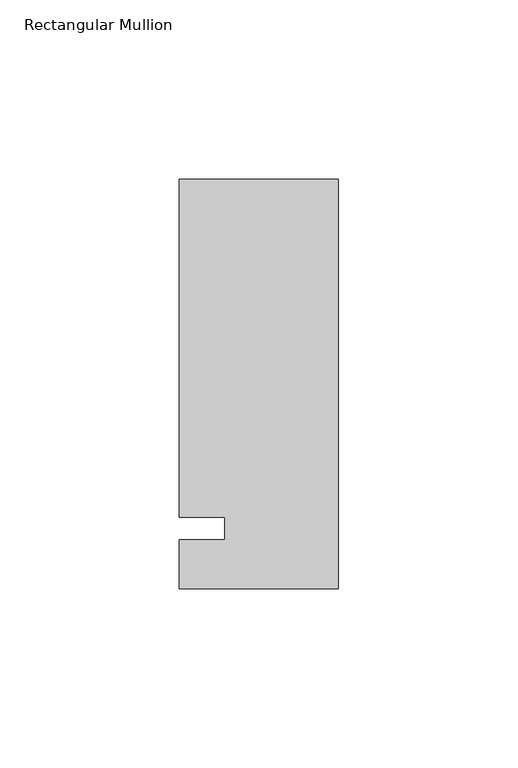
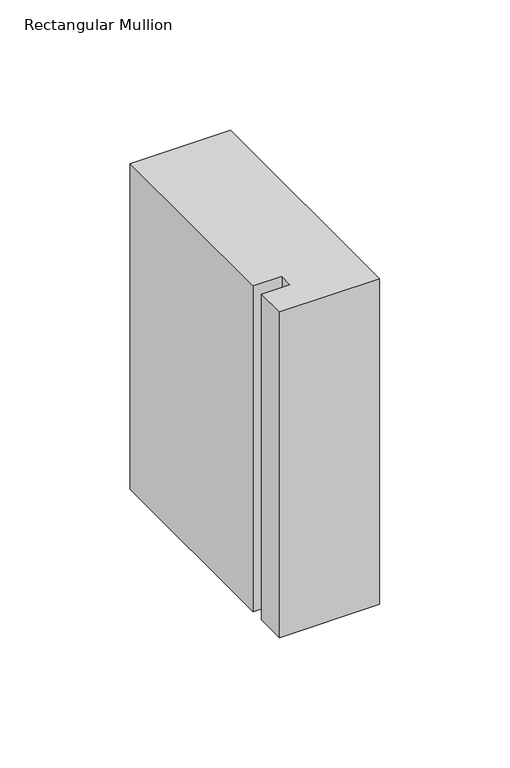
"""IFC4 building model written with IfcOpenShell, lengths in millimetres: member geometry, Rectangular Mullion : Kawneer-TRIFAB_VG_450_BACK_SB_Jamb R."""

from ifc_helpers import new_model, si_unit, frame, origin, place, context, project, spatial, polyline, outline, extrude, source, transform, mapped, element, save


def rectangular_mullion_f62ba54a(model_context):
    return source(origin(), model_context, "Body", "SweptSolid", [
        extrude(outline(polyline([(-44.45, -16.8081154), (-44.45, -3.175), (-31.7482296, -3.175), (-31.7482296, 3.175), (-44.45, 3.175), (-44.45, 97.4918846), (0.0, 97.4918846), (0.0, -16.8081154), (-44.45, -16.8081154)])), frame((0.0, 0.0, -152.4), z_axis=(0.0, 0.0, 1.0), x_axis=(1.0, 0.0, 0.0)), (0.0, 0.0, 1.0), 152.4),
    ])


if __name__ == "__main__":
    model = new_model("IFC4")
    model_context = context("Model", 3, world=origin())
    ifc_project = project(units=[si_unit("LENGTHUNIT", "METRE", prefix="MILLI")], contexts=[model_context])
    site = spatial("IfcSite", under=ifc_project)
    building = spatial("IfcBuilding", under=site)
    placement = place(None, origin())
    rectangular_mullion_shape = rectangular_mullion_f62ba54a(model_context)
    element("IfcMember", 1, ObjectType="Rectangular Mullion : Kawneer-TRIFAB_VG_450_BACK_SB_Jamb R", at=placement, inside=building, context=model_context, shape_type="MappedRepresentation", body=[
        mapped(rectangular_mullion_shape, transform((0.0, 0.0, 0.0), x_axis=(1.0, 0.0, 0.0), y_axis=(0.0, 1.0, 0.0), z_axis=(0.0, 0.0, 1.0))),
    ])
    save(model, "model.ifc")
